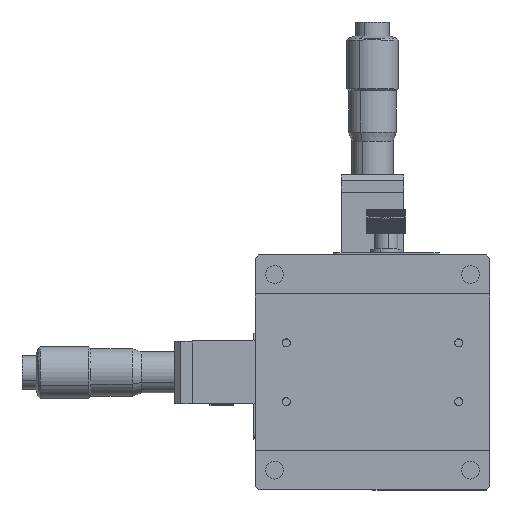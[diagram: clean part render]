
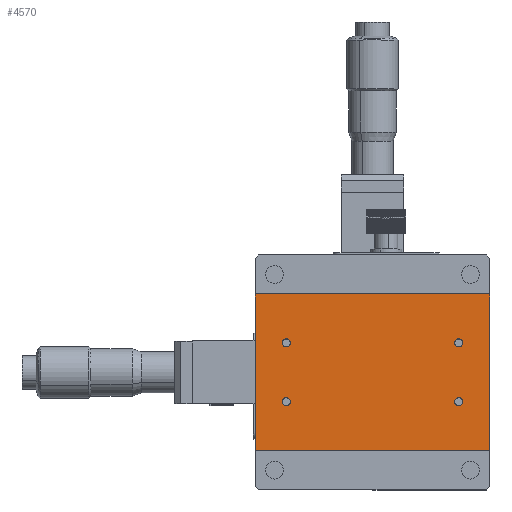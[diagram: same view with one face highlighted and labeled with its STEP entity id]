
A CAD part, top view. The second image highlights one B-rep face of the part: STEP entity #4570.
In plain terms, the highlighted planar face has unit normal (0, 0, 1).
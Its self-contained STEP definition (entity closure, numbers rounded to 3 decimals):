
#198 = CARTESIAN_POINT ( 'NONE',  ( -20.975, 7.5, 9.7 ) ) ;
#252 = CARTESIAN_POINT ( 'NONE',  ( -30., 20., 9.7 ) ) ;
#261 = CARTESIAN_POINT ( 'NONE',  ( -23.025, 7.5, 9.7 ) ) ;
#295 = EDGE_CURVE ( 'NONE', #5857, #6991, #1768, .T. ) ;
#413 = CIRCLE ( 'NONE', #16620, 1.025 ) ;
#557 = VERTEX_POINT ( 'NONE', #11677 ) ;
#684 = AXIS2_PLACEMENT_3D ( 'NONE', #13567, #3106, #12019 ) ;
#835 = CARTESIAN_POINT ( 'NONE',  ( -22., -7.5, 9.7 ) ) ;
#1306 = DIRECTION ( 'NONE',  ( 0., 0., 1. ) ) ;
#1448 = CARTESIAN_POINT ( 'NONE',  ( 20.975, 7.5, 9.7 ) ) ;
#1768 = CIRCLE ( 'NONE', #2511, 1.025 ) ;
#1969 = EDGE_LOOP ( 'NONE', ( #9645, #3703 ) ) ;
#2048 = AXIS2_PLACEMENT_3D ( 'NONE', #835, #2191, #2330 ) ;
#2064 = DIRECTION ( 'NONE',  ( 1., 0., 0. ) ) ;
#2113 = CARTESIAN_POINT ( 'NONE',  ( -30., -20., 9.7 ) ) ;
#2162 = FACE_BOUND ( 'NONE', #1969, .T. ) ;
#2191 = DIRECTION ( 'NONE',  ( 0., 0., 1. ) ) ;
#2330 = DIRECTION ( 'NONE',  ( 1., 0., 0. ) ) ;
#2331 = DIRECTION ( 'NONE',  ( -1., 0., 0. ) ) ;
#2511 = AXIS2_PLACEMENT_3D ( 'NONE', #9684, #13949, #8097 ) ;
#2769 = DIRECTION ( 'NONE',  ( 1., 0., 0. ) ) ;
#2854 = FACE_BOUND ( 'NONE', #7632, .T. ) ;
#3106 = DIRECTION ( 'NONE',  ( 0., 0., 1. ) ) ;
#3277 = VECTOR ( 'NONE', #9958, 1000. ) ;
#3551 = ORIENTED_EDGE ( 'NONE', *, *, #13443, .T. ) ;
#3697 = ORIENTED_EDGE ( 'NONE', *, *, #7653, .F. ) ;
#3698 = DIRECTION ( 'NONE',  ( 0., 1., 0. ) ) ;
#3703 = ORIENTED_EDGE ( 'NONE', *, *, #13597, .F. ) ;
#3832 = EDGE_LOOP ( 'NONE', ( #14202, #15670 ) ) ;
#3946 = AXIS2_PLACEMENT_3D ( 'NONE', #16977, #12439, #18520 ) ;
#4009 = PLANE ( 'NONE',  #18573 ) ;
#4261 = FACE_BOUND ( 'NONE', #3832, .T. ) ;
#4570 = ADVANCED_FACE ( 'NONE', ( #4261, #12330, #2162, #2854, #15820 ), #4009, .F. ) ;
#4680 = CARTESIAN_POINT ( 'NONE',  ( 20.975, -7.5, 9.7 ) ) ;
#4986 = CIRCLE ( 'NONE', #2048, 1.025 ) ;
#4996 = EDGE_CURVE ( 'NONE', #5973, #6738, #5177, .T. ) ;
#5177 = CIRCLE ( 'NONE', #10763, 1.025 ) ;
#5327 = CARTESIAN_POINT ( 'NONE',  ( -30., -20., 9.7 ) ) ;
#5428 = VERTEX_POINT ( 'NONE', #18262 ) ;
#5636 = CARTESIAN_POINT ( 'NONE',  ( 22., -7.5, 9.7 ) ) ;
#5766 = DIRECTION ( 'NONE',  ( 1., 0., 0. ) ) ;
#5857 = VERTEX_POINT ( 'NONE', #1448 ) ;
#5890 = VERTEX_POINT ( 'NONE', #12103 ) ;
#5973 = VERTEX_POINT ( 'NONE', #198 ) ;
#6038 = CARTESIAN_POINT ( 'NONE',  ( -22., 7.5, 9.7 ) ) ;
#6738 = VERTEX_POINT ( 'NONE', #261 ) ;
#6991 = VERTEX_POINT ( 'NONE', #17020 ) ;
#7254 = LINE ( 'NONE', #8109, #14622 ) ;
#7304 = CIRCLE ( 'NONE', #9138, 1.025 ) ;
#7632 = EDGE_LOOP ( 'NONE', ( #14831, #17578 ) ) ;
#7653 = EDGE_CURVE ( 'NONE', #16022, #557, #4986, .T. ) ;
#7842 = CARTESIAN_POINT ( 'NONE',  ( 30., 20., 9.7 ) ) ;
#7857 = LINE ( 'NONE', #2113, #8755 ) ;
#7973 = CARTESIAN_POINT ( 'NONE',  ( 22., -7.5, 9.7 ) ) ;
#8097 = DIRECTION ( 'NONE',  ( 1., 0., 0. ) ) ;
#8109 = CARTESIAN_POINT ( 'NONE',  ( 30., -20., 9.7 ) ) ;
#8120 = EDGE_CURVE ( 'NONE', #6738, #5973, #16039, .T. ) ;
#8259 = EDGE_CURVE ( 'NONE', #6991, #5857, #9550, .T. ) ;
#8600 = EDGE_LOOP ( 'NONE', ( #3697, #9841 ) ) ;
#8682 = CARTESIAN_POINT ( 'NONE',  ( -22., 7.5, 9.7 ) ) ;
#8684 = ORIENTED_EDGE ( 'NONE', *, *, #11281, .F. ) ;
#8755 = VECTOR ( 'NONE', #10745, 1000. ) ;
#9138 = AXIS2_PLACEMENT_3D ( 'NONE', #7973, #13942, #2064 ) ;
#9403 = EDGE_CURVE ( 'NONE', #5890, #10241, #7254, .T. ) ;
#9550 = CIRCLE ( 'NONE', #684, 1.025 ) ;
#9645 = ORIENTED_EDGE ( 'NONE', *, *, #15896, .F. ) ;
#9654 = VERTEX_POINT ( 'NONE', #16167 ) ;
#9684 = CARTESIAN_POINT ( 'NONE',  ( 22., 7.5, 9.7 ) ) ;
#9809 = VERTEX_POINT ( 'NONE', #4680 ) ;
#9841 = ORIENTED_EDGE ( 'NONE', *, *, #15248, .F. ) ;
#9958 = DIRECTION ( 'NONE',  ( 0., 1., 0. ) ) ;
#10241 = VERTEX_POINT ( 'NONE', #7842 ) ;
#10264 = DIRECTION ( 'NONE',  ( 1., 0., 0. ) ) ;
#10745 = DIRECTION ( 'NONE',  ( 1., 0., 0. ) ) ;
#10763 = AXIS2_PLACEMENT_3D ( 'NONE', #6038, #16272, #2769 ) ;
#11281 = EDGE_CURVE ( 'NONE', #5428, #14442, #13914, .T. ) ;
#11329 = CARTESIAN_POINT ( 'NONE',  ( -30., 20., 9.7 ) ) ;
#11422 = CARTESIAN_POINT ( 'NONE',  ( -20.975, -7.5, 9.7 ) ) ;
#11677 = CARTESIAN_POINT ( 'NONE',  ( -23.025, -7.5, 9.7 ) ) ;
#12019 = DIRECTION ( 'NONE',  ( 1., 0., 0. ) ) ;
#12103 = CARTESIAN_POINT ( 'NONE',  ( 30., -20., 9.7 ) ) ;
#12330 = FACE_BOUND ( 'NONE', #8600, .T. ) ;
#12439 = DIRECTION ( 'NONE',  ( 0., 0., 1. ) ) ;
#13443 = EDGE_CURVE ( 'NONE', #5428, #5890, #7857, .T. ) ;
#13567 = CARTESIAN_POINT ( 'NONE',  ( 22., 7.5, 9.7 ) ) ;
#13597 = EDGE_CURVE ( 'NONE', #9809, #9654, #413, .T. ) ;
#13914 = LINE ( 'NONE', #14368, #3277 ) ;
#13929 = AXIS2_PLACEMENT_3D ( 'NONE', #8682, #1306, #10264 ) ;
#13942 = DIRECTION ( 'NONE',  ( 0., 0., 1. ) ) ;
#13949 = DIRECTION ( 'NONE',  ( 0., 0., 1. ) ) ;
#14202 = ORIENTED_EDGE ( 'NONE', *, *, #4996, .F. ) ;
#14307 = EDGE_CURVE ( 'NONE', #14442, #10241, #15191, .T. ) ;
#14368 = CARTESIAN_POINT ( 'NONE',  ( -30., -20., 9.7 ) ) ;
#14442 = VERTEX_POINT ( 'NONE', #252 ) ;
#14622 = VECTOR ( 'NONE', #3698, 1000. ) ;
#14764 = ORIENTED_EDGE ( 'NONE', *, *, #9403, .T. ) ;
#14831 = ORIENTED_EDGE ( 'NONE', *, *, #8259, .F. ) ;
#15191 = LINE ( 'NONE', #11329, #16575 ) ;
#15248 = EDGE_CURVE ( 'NONE', #557, #16022, #15390, .T. ) ;
#15390 = CIRCLE ( 'NONE', #3946, 1.025 ) ;
#15670 = ORIENTED_EDGE ( 'NONE', *, *, #8120, .F. ) ;
#15704 = DIRECTION ( 'NONE',  ( 0., 0., -1. ) ) ;
#15820 = FACE_OUTER_BOUND ( 'NONE', #18551, .T. ) ;
#15896 = EDGE_CURVE ( 'NONE', #9654, #9809, #7304, .T. ) ;
#16022 = VERTEX_POINT ( 'NONE', #11422 ) ;
#16039 = CIRCLE ( 'NONE', #13929, 1.025 ) ;
#16167 = CARTESIAN_POINT ( 'NONE',  ( 23.025, -7.5, 9.7 ) ) ;
#16272 = DIRECTION ( 'NONE',  ( 0., 0., 1. ) ) ;
#16575 = VECTOR ( 'NONE', #17470, 1000. ) ;
#16620 = AXIS2_PLACEMENT_3D ( 'NONE', #5636, #18844, #5766 ) ;
#16977 = CARTESIAN_POINT ( 'NONE',  ( -22., -7.5, 9.7 ) ) ;
#17020 = CARTESIAN_POINT ( 'NONE',  ( 23.025, 7.5, 9.7 ) ) ;
#17426 = ORIENTED_EDGE ( 'NONE', *, *, #14307, .F. ) ;
#17470 = DIRECTION ( 'NONE',  ( 1., 0., 0. ) ) ;
#17578 = ORIENTED_EDGE ( 'NONE', *, *, #295, .F. ) ;
#18262 = CARTESIAN_POINT ( 'NONE',  ( -30., -20., 9.7 ) ) ;
#18520 = DIRECTION ( 'NONE',  ( 1., 0., 0. ) ) ;
#18551 = EDGE_LOOP ( 'NONE', ( #14764, #17426, #8684, #3551 ) ) ;
#18573 = AXIS2_PLACEMENT_3D ( 'NONE', #5327, #15704, #2331 ) ;
#18844 = DIRECTION ( 'NONE',  ( 0., 0., 1. ) ) ;
